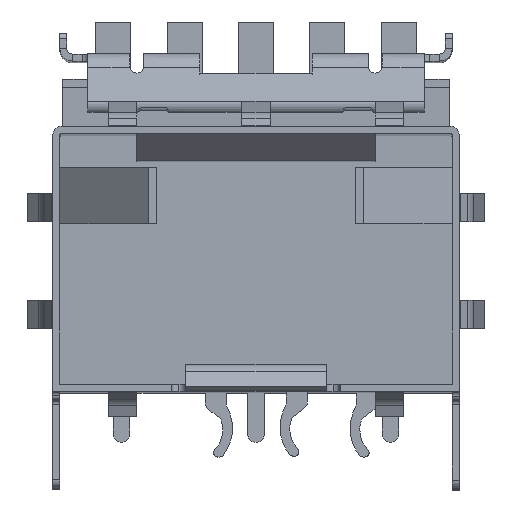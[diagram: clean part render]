
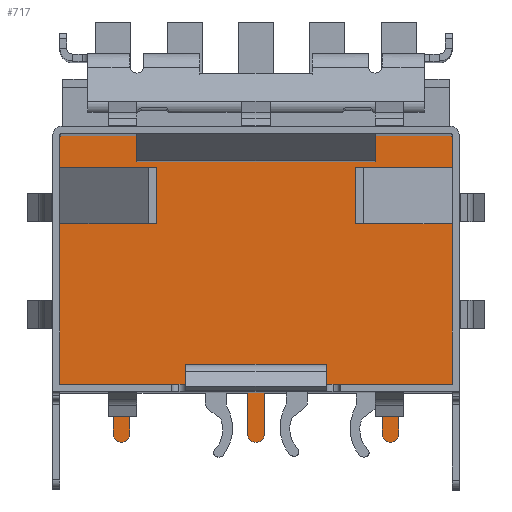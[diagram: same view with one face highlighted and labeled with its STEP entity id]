
A CAD part, top view. The second image highlights one B-rep face of the part: STEP entity #717.
In plain terms, the highlighted planar face has unit normal (0, 0, 1).
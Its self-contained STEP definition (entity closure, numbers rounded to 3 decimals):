
#717=ADVANCED_FACE('',(#2040),#1412,.F.);
#1412=PLANE('',#15319);
#2040=FACE_OUTER_BOUND('',#2792,.T.);
#2792=EDGE_LOOP('',(#5913,#5914,#5915,#5916,#5917,#5918,#5919,#5920,#5921,
#5922,#5923,#5924,#5925,#5926,#5927,#5928,#5929,#5930,#5931,#5932,#5933,
#5934,#5935,#5936,#5937,#5938));
#3221=CIRCLE('',#15314,0.05);
#3222=CIRCLE('',#15315,0.05);
#3223=CIRCLE('',#15316,0.3);
#3224=CIRCLE('',#15317,0.3);
#3225=CIRCLE('',#15318,0.3);
#5913=ORIENTED_EDGE('',*,*,#10353,.F.);
#5914=ORIENTED_EDGE('',*,*,#10354,.T.);
#5915=ORIENTED_EDGE('',*,*,#10355,.T.);
#5916=ORIENTED_EDGE('',*,*,#10356,.T.);
#5917=ORIENTED_EDGE('',*,*,#10357,.T.);
#5918=ORIENTED_EDGE('',*,*,#10358,.T.);
#5919=ORIENTED_EDGE('',*,*,#10359,.T.);
#5920=ORIENTED_EDGE('',*,*,#10360,.T.);
#5921=ORIENTED_EDGE('',*,*,#10361,.T.);
#5922=ORIENTED_EDGE('',*,*,#10362,.F.);
#5923=ORIENTED_EDGE('',*,*,#10363,.F.);
#5924=ORIENTED_EDGE('',*,*,#10364,.T.);
#5925=ORIENTED_EDGE('',*,*,#10365,.T.);
#5926=ORIENTED_EDGE('',*,*,#10366,.F.);
#5927=ORIENTED_EDGE('',*,*,#10367,.F.);
#5928=ORIENTED_EDGE('',*,*,#10368,.F.);
#5929=ORIENTED_EDGE('',*,*,#10369,.T.);
#5930=ORIENTED_EDGE('',*,*,#10370,.F.);
#5931=ORIENTED_EDGE('',*,*,#10371,.F.);
#5932=ORIENTED_EDGE('',*,*,#10372,.F.);
#5933=ORIENTED_EDGE('',*,*,#10373,.T.);
#5934=ORIENTED_EDGE('',*,*,#10374,.F.);
#5935=ORIENTED_EDGE('',*,*,#10375,.F.);
#5936=ORIENTED_EDGE('',*,*,#10376,.F.);
#5937=ORIENTED_EDGE('',*,*,#10377,.T.);
#5938=ORIENTED_EDGE('',*,*,#10378,.T.);
#8535=VERTEX_POINT('',#22528);
#8536=VERTEX_POINT('',#22529);
#8537=VERTEX_POINT('',#22531);
#8538=VERTEX_POINT('',#22533);
#8539=VERTEX_POINT('',#22535);
#8540=VERTEX_POINT('',#22537);
#8541=VERTEX_POINT('',#22539);
#8542=VERTEX_POINT('',#22541);
#8543=VERTEX_POINT('',#22543);
#8544=VERTEX_POINT('',#22545);
#8545=VERTEX_POINT('',#22547);
#8546=VERTEX_POINT('',#22549);
#8547=VERTEX_POINT('',#22551);
#8548=VERTEX_POINT('',#22553);
#8549=VERTEX_POINT('',#22555);
#8550=VERTEX_POINT('',#22557);
#8551=VERTEX_POINT('',#22559);
#8552=VERTEX_POINT('',#22561);
#8553=VERTEX_POINT('',#22563);
#8554=VERTEX_POINT('',#22565);
#8555=VERTEX_POINT('',#22567);
#8556=VERTEX_POINT('',#22569);
#8557=VERTEX_POINT('',#22571);
#8558=VERTEX_POINT('',#22573);
#8559=VERTEX_POINT('',#22575);
#8560=VERTEX_POINT('',#22577);
#10353=EDGE_CURVE('',#8535,#8536,#12359,.T.);
#10354=EDGE_CURVE('',#8535,#8537,#12360,.T.);
#10355=EDGE_CURVE('',#8537,#8538,#12361,.T.);
#10356=EDGE_CURVE('',#8538,#8539,#12362,.T.);
#10357=EDGE_CURVE('',#8539,#8540,#3221,.T.);
#10358=EDGE_CURVE('',#8540,#8541,#12363,.T.);
#10359=EDGE_CURVE('',#8541,#8542,#3222,.T.);
#10360=EDGE_CURVE('',#8542,#8543,#12364,.T.);
#10361=EDGE_CURVE('',#8543,#8544,#12365,.T.);
#10362=EDGE_CURVE('',#8545,#8544,#12366,.T.);
#10363=EDGE_CURVE('',#8546,#8545,#12367,.T.);
#10364=EDGE_CURVE('',#8546,#8547,#12368,.T.);
#10365=EDGE_CURVE('',#8547,#8548,#12369,.T.);
#10366=EDGE_CURVE('',#8549,#8548,#12370,.T.);
#10367=EDGE_CURVE('',#8550,#8549,#3223,.T.);
#10368=EDGE_CURVE('',#8551,#8550,#12371,.T.);
#10369=EDGE_CURVE('',#8551,#8552,#12372,.T.);
#10370=EDGE_CURVE('',#8553,#8552,#12373,.T.);
#10371=EDGE_CURVE('',#8554,#8553,#3224,.T.);
#10372=EDGE_CURVE('',#8555,#8554,#12374,.T.);
#10373=EDGE_CURVE('',#8555,#8556,#12375,.T.);
#10374=EDGE_CURVE('',#8557,#8556,#12376,.T.);
#10375=EDGE_CURVE('',#8558,#8557,#3225,.T.);
#10376=EDGE_CURVE('',#8559,#8558,#12377,.T.);
#10377=EDGE_CURVE('',#8559,#8560,#12378,.T.);
#10378=EDGE_CURVE('',#8560,#8536,#12379,.T.);
#12359=LINE('',#22527,#14117);
#12360=LINE('',#22530,#14118);
#12361=LINE('',#22532,#14119);
#12362=LINE('',#22534,#14120);
#12363=LINE('',#22538,#14121);
#12364=LINE('',#22542,#14122);
#12365=LINE('',#22544,#14123);
#12366=LINE('',#22546,#14124);
#12367=LINE('',#22548,#14125);
#12368=LINE('',#22550,#14126);
#12369=LINE('',#22552,#14127);
#12370=LINE('',#22554,#14128);
#12371=LINE('',#22558,#14129);
#12372=LINE('',#22560,#14130);
#12373=LINE('',#22562,#14131);
#12374=LINE('',#22566,#14132);
#12375=LINE('',#22568,#14133);
#12376=LINE('',#22570,#14134);
#12377=LINE('',#22574,#14135);
#12378=LINE('',#22576,#14136);
#12379=LINE('',#22578,#14137);
#14117=VECTOR('',#18065,1.);
#14118=VECTOR('',#18066,1.);
#14119=VECTOR('',#18067,1.);
#14120=VECTOR('',#18068,1.);
#14121=VECTOR('',#18071,1.);
#14122=VECTOR('',#18074,1.);
#14123=VECTOR('',#18075,1.);
#14124=VECTOR('',#18076,1.);
#14125=VECTOR('',#18077,1.);
#14126=VECTOR('',#18078,1.);
#14127=VECTOR('',#18079,1.);
#14128=VECTOR('',#18080,1.);
#14129=VECTOR('',#18083,1.);
#14130=VECTOR('',#18084,1.);
#14131=VECTOR('',#18085,1.);
#14132=VECTOR('',#18088,1.);
#14133=VECTOR('',#18089,1.);
#14134=VECTOR('',#18090,1.);
#14135=VECTOR('',#18093,1.);
#14136=VECTOR('',#18094,1.);
#14137=VECTOR('',#18095,1.);
#15314=AXIS2_PLACEMENT_3D('',#22536,#18069,#18070);
#15315=AXIS2_PLACEMENT_3D('',#22540,#18072,#18073);
#15316=AXIS2_PLACEMENT_3D('',#22556,#18081,#18082);
#15317=AXIS2_PLACEMENT_3D('',#22564,#18086,#18087);
#15318=AXIS2_PLACEMENT_3D('',#22572,#18091,#18092);
#15319=AXIS2_PLACEMENT_3D('',#22579,#18096,#18097);
#18065=DIRECTION('',(1.,0.,0.));
#18066=DIRECTION('',(0.,1.,0.));
#18067=DIRECTION('',(1.,0.,0.));
#18068=DIRECTION('',(0.,1.,0.));
#18069=DIRECTION('',(0.,0.,1.));
#18070=DIRECTION('',(-1.,0.,0.));
#18071=DIRECTION('',(-1.,0.,0.));
#18072=DIRECTION('',(0.,0.,1.));
#18073=DIRECTION('',(-1.,0.,0.));
#18074=DIRECTION('',(0.,-1.,0.));
#18075=DIRECTION('',(1.,0.,0.));
#18076=DIRECTION('',(0.,1.,0.));
#18077=DIRECTION('',(1.,0.,0.));
#18078=DIRECTION('',(0.,-1.,0.));
#18079=DIRECTION('',(1.,0.,0.));
#18080=DIRECTION('',(0.,1.,0.));
#18081=DIRECTION('',(0.,0.,-1.));
#18082=DIRECTION('',(-1.,0.,0.));
#18083=DIRECTION('',(0.,-1.,0.));
#18084=DIRECTION('',(1.,0.,0.));
#18085=DIRECTION('',(0.,1.,0.));
#18086=DIRECTION('',(0.,0.,-1.));
#18087=DIRECTION('',(-1.,0.,0.));
#18088=DIRECTION('',(0.,-1.,0.));
#18089=DIRECTION('',(1.,0.,0.));
#18090=DIRECTION('',(0.,1.,0.));
#18091=DIRECTION('',(0.,0.,-1.));
#18092=DIRECTION('',(-1.,0.,0.));
#18093=DIRECTION('',(0.,-1.,0.));
#18094=DIRECTION('',(1.,0.,0.));
#18095=DIRECTION('',(0.,1.,0.));
#18096=DIRECTION('',(0.,0.,-1.));
#18097=DIRECTION('',(1.,0.,0.));
#22527=CARTESIAN_POINT('',(4.8,6.05,-48.5));
#22528=CARTESIAN_POINT('',(6.633,6.05,-48.5));
#22529=CARTESIAN_POINT('',(7.,6.05,-48.5));
#22530=CARTESIAN_POINT('',(6.633,0.,-48.5));
#22531=CARTESIAN_POINT('',(6.633,8.05,-48.5));
#22532=CARTESIAN_POINT('',(4.8,8.05,-48.5));
#22533=CARTESIAN_POINT('',(7.,8.05,-48.5));
#22534=CARTESIAN_POINT('',(7.,0.25,-48.5));
#22535=CARTESIAN_POINT('',(7.,9.15,-48.5));
#22536=CARTESIAN_POINT('',(6.95,9.15,-48.5));
#22537=CARTESIAN_POINT('',(6.95,9.2,-48.5));
#22538=CARTESIAN_POINT('',(6.95,9.2,-48.5));
#22539=CARTESIAN_POINT('',(-6.95,9.2,-48.5));
#22540=CARTESIAN_POINT('',(-6.95,9.15,-48.5));
#22541=CARTESIAN_POINT('',(-7.,9.15,-48.5));
#22542=CARTESIAN_POINT('',(-7.,9.15,-48.5));
#22543=CARTESIAN_POINT('',(-7.,8.05,-48.5));
#22544=CARTESIAN_POINT('',(4.8,8.05,-48.5));
#22545=CARTESIAN_POINT('',(-6.633,8.05,-48.5));
#22546=CARTESIAN_POINT('',(-6.633,0.,-48.5));
#22547=CARTESIAN_POINT('',(-6.633,6.05,-48.5));
#22548=CARTESIAN_POINT('',(4.8,6.05,-48.5));
#22549=CARTESIAN_POINT('',(-7.,6.05,-48.5));
#22550=CARTESIAN_POINT('',(-7.,9.15,-48.5));
#22551=CARTESIAN_POINT('',(-7.,0.,-48.5));
#22552=CARTESIAN_POINT('',(-7.,0.,-48.5));
#22553=CARTESIAN_POINT('',(-5.1,0.,-48.5));
#22554=CARTESIAN_POINT('',(-5.1,0.,-48.5));
#22555=CARTESIAN_POINT('',(-5.1,-1.45,-48.5));
#22556=CARTESIAN_POINT('',(-4.8,-1.45,-48.5));
#22557=CARTESIAN_POINT('',(-4.5,-1.45,-48.5));
#22558=CARTESIAN_POINT('',(-4.5,0.,-48.5));
#22559=CARTESIAN_POINT('',(-4.5,0.,-48.5));
#22560=CARTESIAN_POINT('',(-7.,0.,-48.5));
#22561=CARTESIAN_POINT('',(-0.3,0.,-48.5));
#22562=CARTESIAN_POINT('',(-0.3,0.,-48.5));
#22563=CARTESIAN_POINT('',(-0.3,-1.45,-48.5));
#22564=CARTESIAN_POINT('',(0.,-1.45,-48.5));
#22565=CARTESIAN_POINT('',(0.3,-1.45,-48.5));
#22566=CARTESIAN_POINT('',(0.3,0.,-48.5));
#22567=CARTESIAN_POINT('',(0.3,0.,-48.5));
#22568=CARTESIAN_POINT('',(-7.,0.,-48.5));
#22569=CARTESIAN_POINT('',(4.5,0.,-48.5));
#22570=CARTESIAN_POINT('',(4.5,0.,-48.5));
#22571=CARTESIAN_POINT('',(4.5,-1.45,-48.5));
#22572=CARTESIAN_POINT('',(4.8,-1.45,-48.5));
#22573=CARTESIAN_POINT('',(5.1,-1.45,-48.5));
#22574=CARTESIAN_POINT('',(5.1,0.,-48.5));
#22575=CARTESIAN_POINT('',(5.1,0.,-48.5));
#22576=CARTESIAN_POINT('',(-7.,0.,-48.5));
#22577=CARTESIAN_POINT('',(7.,0.,-48.5));
#22578=CARTESIAN_POINT('',(7.,0.25,-48.5));
#22579=CARTESIAN_POINT('',(4.8,0.,-48.5));
